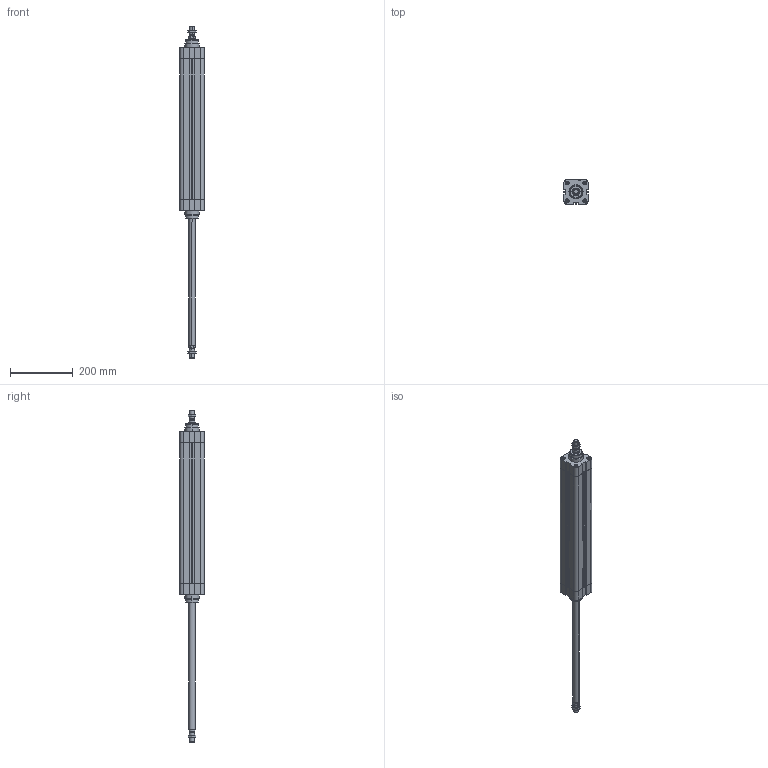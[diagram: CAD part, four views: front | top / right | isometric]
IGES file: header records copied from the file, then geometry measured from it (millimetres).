
Global section: file name: No Iges File Name specified; native system: Autodesk Inventor 2010; preprocessor: AutoDesk Inventor Iges Exporter R2010; author: rivolro1; date: 20090707.105816; units: millimetre
Bounding box: 77.5 x 77.5 x 1059 mm (x, y, z)
Volume: 2079472.8 mm3; surface area: 406343.9 mm2
Topology: 6 solids, 6 shells, 343 faces, 810 edges, 508 vertices
Faces by surface type: plane 137, bspline 86, cylinder 58, cone 38, revolution 20, torus 4
